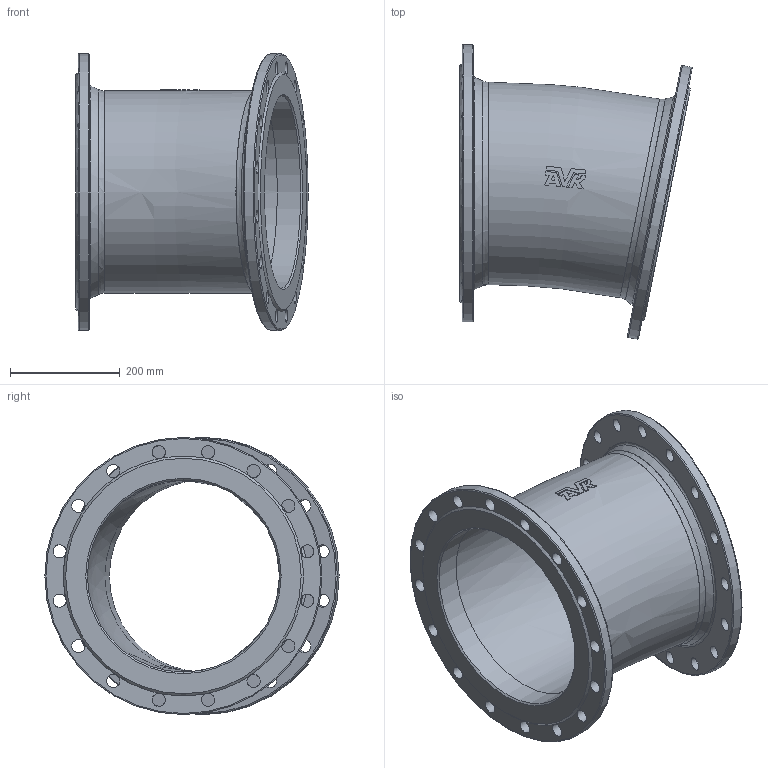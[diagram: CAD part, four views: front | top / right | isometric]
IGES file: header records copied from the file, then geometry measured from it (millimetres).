
Start section: SolidWorks IGES file using analytic representation for surfaces
Global section: file name: \\avksan2\techshare\PBM outline export from Enovia\O_712_0110_DN350_0X_REV01.igs; native system: SolidWorks 2022; preprocessor: SolidWorks 2022; author: pbm; date: 240815.110533; units: millimetre
Bounding box: 423.28 x 536.28 x 505 mm (x, y, z)
Surface area: 1261134.1 mm2 (no closed solid volume)
Topology: 0 solids, 0 shells, 99 faces, 618 edges, 566 vertices
Faces by surface type: revolution 56, bspline 43
